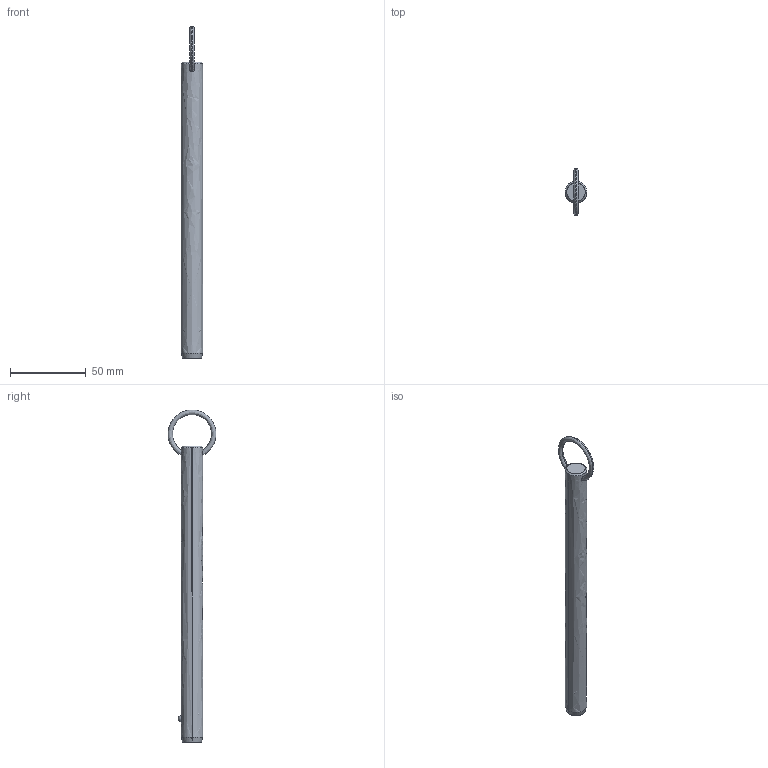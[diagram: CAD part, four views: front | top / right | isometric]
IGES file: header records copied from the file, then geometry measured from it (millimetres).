
Start section: SolidWorks IGES file using analytic representation for surfaces
Global section: file name: C:\Users\liam_\OneDrive\Documents\WORK\Work for WixRoyd\Job Files\J-00019 - Matt Davis CAD Checking\04. CAD Drawings\automotion20190605\P1250.2_v2\P1250.2_v2_20190729_IGES\P1250.056-670.igs; native system: SolidWorks 2017; preprocessor: SolidWorks 2017; author: liam_; date: 190729.232842; units: millimetre
Bounding box: 14.2 x 31.7 x 219.3 mm (x, y, z)
Surface area: 9687.2 mm2 (no closed solid volume)
Topology: 0 solids, 0 shells, 12 faces, 285 edges, 283 vertices
Faces by surface type: revolution 8, bspline 4
